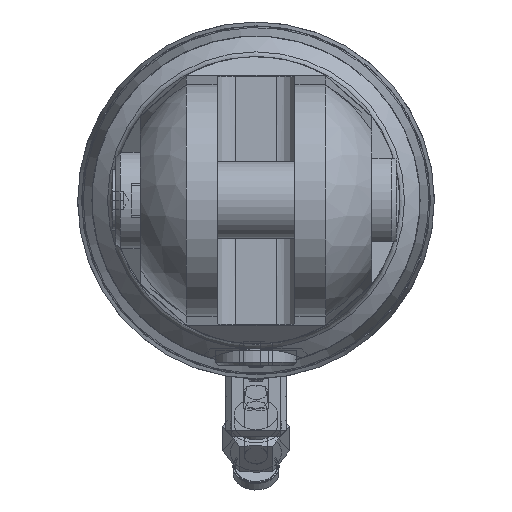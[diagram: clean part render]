
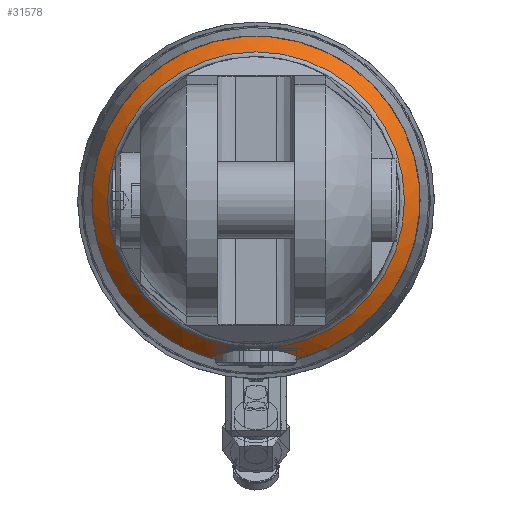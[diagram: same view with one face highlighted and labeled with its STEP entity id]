
A CAD part, left-side view. The second image highlights one B-rep face of the part: STEP entity #31578.
In plain terms, the highlighted conical face has half-angle 45.619 degrees and reference radius 51.431 mm.
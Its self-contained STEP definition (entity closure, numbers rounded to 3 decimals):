
#624=B_SPLINE_CURVE_WITH_KNOTS('',3,(#42673,#42674,#42675,#42676,#42677,
#42678,#42679,#42680,#42681,#42682),.UNSPECIFIED.,.F.,.F.,(4,2,2,2,4),(2.367,
2.557,3.248,3.593,3.938),
 .UNSPECIFIED.);
#627=B_SPLINE_CURVE_WITH_KNOTS('',3,(#42730,#42731,#42732,#42733,#42734,
#42735,#42736,#42737,#42738,#42739),.UNSPECIFIED.,.F.,.F.,(4,2,2,2,4),(3.938,
4.284,4.629,5.32,5.51),
 .UNSPECIFIED.);
#1931=CONICAL_SURFACE('',#33523,51.431,0.796);
#9968=FACE_OUTER_BOUND('',#11707,.T.);
#11707=EDGE_LOOP('',(#22383,#22384,#22385,#22386,#22387));
#13536=CIRCLE('',#33522,54.);
#13537=CIRCLE('',#33524,48.862);
#13538=CIRCLE('',#33525,48.862);
#14045=VERTEX_POINT('',#42606);
#14063=VERTEX_POINT('',#42672);
#14065=VERTEX_POINT('',#42707);
#14070=VERTEX_POINT('',#42795);
#17276=EDGE_CURVE('',#14063,#14045,#624,.T.);
#17279=EDGE_CURVE('',#14045,#14065,#627,.T.);
#17285=EDGE_CURVE('',#14063,#14065,#13536,.T.);
#17287=EDGE_CURVE('',#14045,#14070,#13537,.T.);
#17288=EDGE_CURVE('',#14070,#14045,#13538,.T.);
#22383=ORIENTED_EDGE('',*,*,#17279,.T.);
#22384=ORIENTED_EDGE('',*,*,#17285,.F.);
#22385=ORIENTED_EDGE('',*,*,#17276,.T.);
#22386=ORIENTED_EDGE('',*,*,#17287,.T.);
#22387=ORIENTED_EDGE('',*,*,#17288,.T.);
#31578=ADVANCED_FACE('',(#9968),#1931,.T.);
#33522=AXIS2_PLACEMENT_3D('',#42771,#35754,#35755);
#33523=AXIS2_PLACEMENT_3D('',#42794,#35756,#35757);
#33524=AXIS2_PLACEMENT_3D('',#42796,#35758,#35759);
#33525=AXIS2_PLACEMENT_3D('',#42797,#35760,#35761);
#35754=DIRECTION('center_axis',(1.,0.,0.));
#35755=DIRECTION('ref_axis',(0.,0.,
1.));
#35756=DIRECTION('center_axis',(1.,0.,0.));
#35757=DIRECTION('ref_axis',(0.,0.,
1.));
#35758=DIRECTION('center_axis',(1.,0.,0.));
#35759=DIRECTION('ref_axis',(0.,0.,
1.));
#35760=DIRECTION('center_axis',(1.,0.,0.));
#35761=DIRECTION('ref_axis',(0.,0.,
1.));
#42606=CARTESIAN_POINT('',(-3055.279,0.,-48.862));
#42672=CARTESIAN_POINT('',(-3050.25,15.001,-51.874));
#42673=CARTESIAN_POINT('Ctrl Pts',(-3050.25,15.001,-51.874));
#42674=CARTESIAN_POINT('Ctrl Pts',(-3050.595,14.504,-51.651));
#42675=CARTESIAN_POINT('Ctrl Pts',(-3050.927,13.998,-51.44));
#42676=CARTESIAN_POINT('Ctrl Pts',(-3052.389,11.623,-50.52));
#42677=CARTESIAN_POINT('Ctrl Pts',(-3053.459,9.429,-49.888));
#42678=CARTESIAN_POINT('Ctrl Pts',(-3054.546,5.934,-49.267));
#42679=CARTESIAN_POINT('Ctrl Pts',(-3054.825,4.736,-49.112));
#42680=CARTESIAN_POINT('Ctrl Pts',(-3055.191,2.344,-48.909));
#42681=CARTESIAN_POINT('Ctrl Pts',(-3055.279,1.151,-48.862));
#42682=CARTESIAN_POINT('Ctrl Pts',(-3055.279,0.,
-48.862));
#42707=CARTESIAN_POINT('',(-3050.25,-15.001,-51.874));
#42730=CARTESIAN_POINT('Ctrl Pts',(-3055.279,0.,
-48.862));
#42731=CARTESIAN_POINT('Ctrl Pts',(-3055.279,-1.151,
-48.862));
#42732=CARTESIAN_POINT('Ctrl Pts',(-3055.191,-2.344,
-48.909));
#42733=CARTESIAN_POINT('Ctrl Pts',(-3054.825,-4.736,-49.112));
#42734=CARTESIAN_POINT('Ctrl Pts',(-3054.546,-5.934,
-49.267));
#42735=CARTESIAN_POINT('Ctrl Pts',(-3053.459,-9.429,
-49.888));
#42736=CARTESIAN_POINT('Ctrl Pts',(-3052.389,-11.623,-50.52));
#42737=CARTESIAN_POINT('Ctrl Pts',(-3050.927,-13.998,-51.44));
#42738=CARTESIAN_POINT('Ctrl Pts',(-3050.595,-14.504,
-51.651));
#42739=CARTESIAN_POINT('Ctrl Pts',(-3050.25,-15.001,-51.874));
#42771=CARTESIAN_POINT('Origin',(-3050.25,0.,0.));
#42794=CARTESIAN_POINT('Origin',(-3052.764,0.,
0.));
#42795=CARTESIAN_POINT('',(-3055.279,48.862,0.));
#42796=CARTESIAN_POINT('Origin',(-3055.279,0.,
0.));
#42797=CARTESIAN_POINT('Origin',(-3055.279,0.,
0.));
